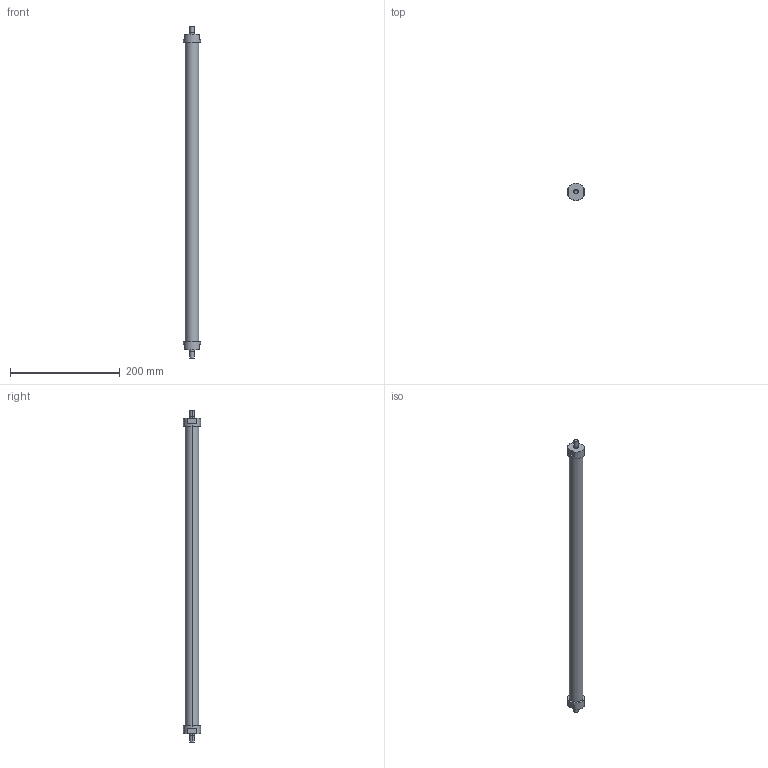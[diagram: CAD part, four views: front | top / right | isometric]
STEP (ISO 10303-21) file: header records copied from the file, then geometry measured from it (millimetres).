
FILE_DESCRIPTION(('STEP AP214'),'1');
FILE_NAME('ETT-R050N584.stp','2015-02-02T15:42:28',(' '),(' '),'Spatial InterOp 3D',' ',' ');
FILE_SCHEMA(('automotive_design'));
Length unit declared in the file: metre
Products named in the file (3): 1; 2; 3
Bounding box: 31 x 31 x 604 mm (x, y, z)
Volume: 290041.4 mm3; surface area: 48953 mm2
Topology: 1 solids, 7 shells, 30 faces, 81 edges, 63 vertices
Faces by surface type: plane 16, cylinder 14
Entity records: 1295 total; most frequent: DIRECTION 194, CARTESIAN_POINT 177, ORIENTED_EDGE 138, EDGE_CURVE 81, AXIS2_PLACEMENT_3D 80, VERTEX_POINT 63, CIRCLE 47, EDGE_LOOP 36
